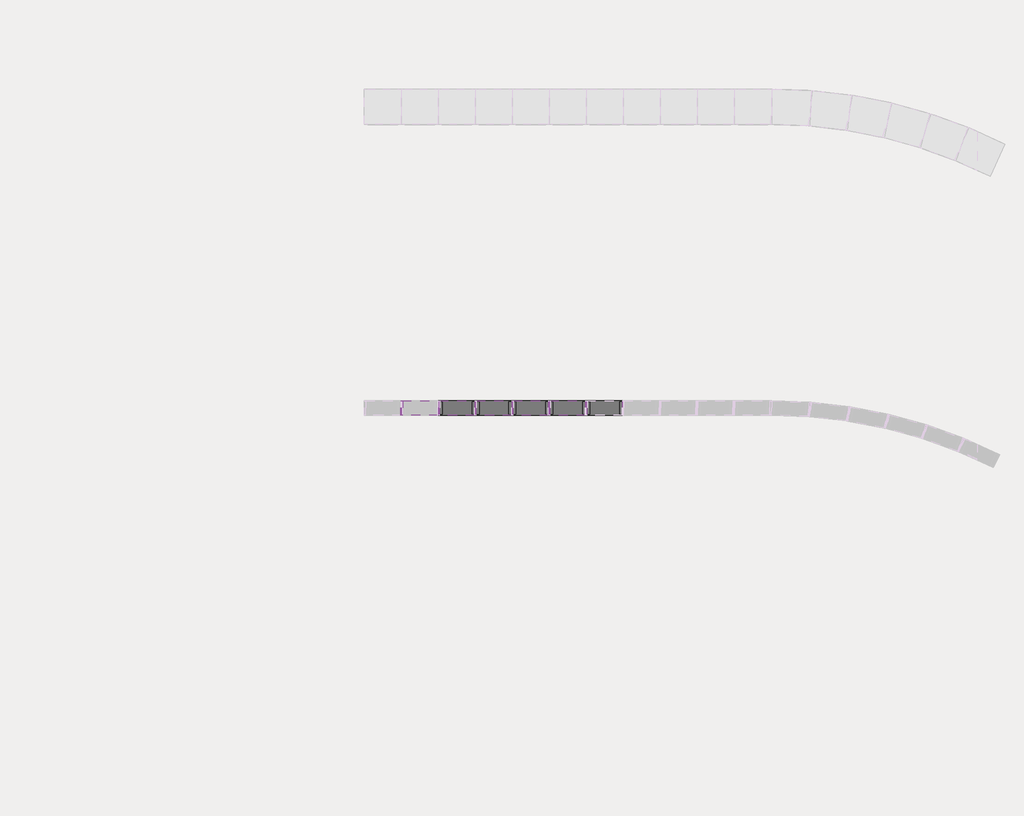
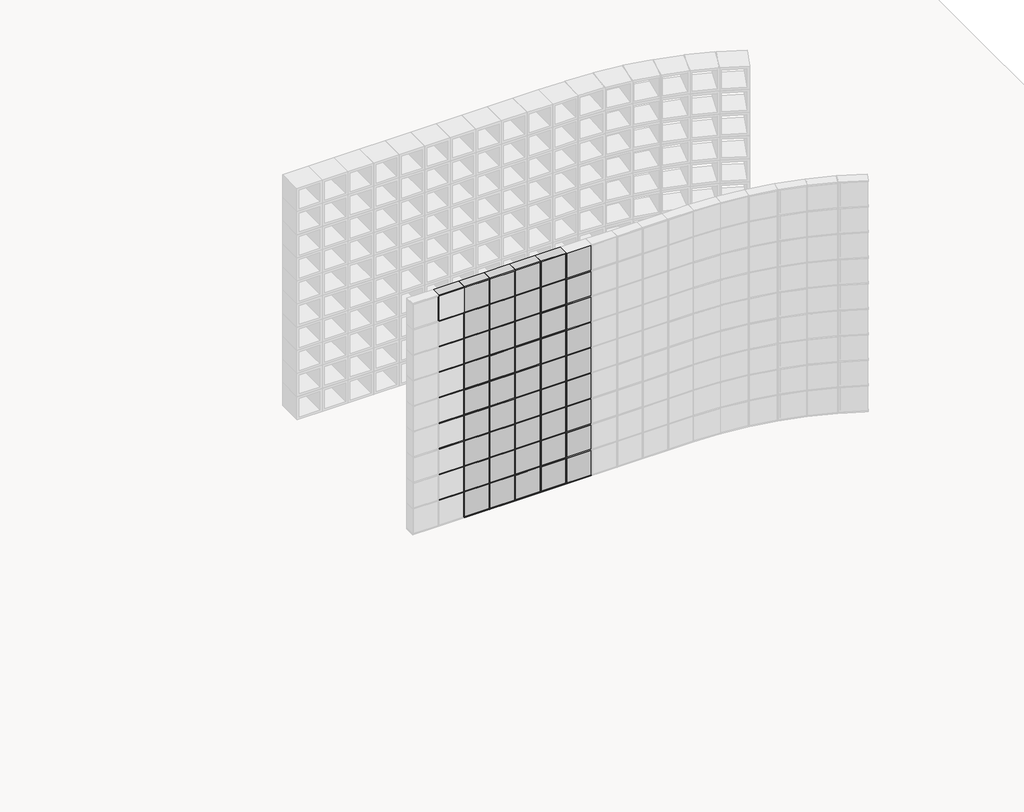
# One storey, part 3 of 15: 87 members, 45 plates.
"""IFC4 building model written with IfcOpenShell, lengths in millimetres."""

from ifc_helpers import new_model, si_unit, origin, place, context, project, spatial, transform, mapped, element, save
from components import rectangular_mullion_junta_tijolo_de_vidro_3e2591da, rectangular_mullion_junta_tijolo_de_vidro_3e2b090d, rectangular_mullion_junta_tijolo_de_vidro_f3dacb56, pnl_tijolo_de_vidro_a28b313b

model = new_model("IFC4")

# Units and contexts
model_context = context("Model", 3, world=origin())
ifc_project = project(units=[si_unit("LENGTHUNIT", "METRE", prefix="MILLI")], contexts=[model_context])

# Site, building, storey
site = spatial("IfcSite", under=ifc_project)
building = spatial("IfcBuilding", under=site)
storey = spatial("IfcBuildingStorey", under=building, Name="TÉRREO", Elevation=0.0)

# Members
placement = place(None, origin())
rectangular_mullion_junta_tijolo_de_vidro_shape = rectangular_mullion_junta_tijolo_de_vidro_3e2591da(model_context)
element("IfcMember", 1, ObjectType="Rectangular Mullion : JUNTA TIJOLO DE VIDRO", at=placement, inside=storey, context=model_context, shape_type="MappedRepresentation", body=[
    mapped(rectangular_mullion_junta_tijolo_de_vidro_shape, transform((44013.4759341, 2916.9852574, 10.0), x_axis=(1.0, 0.0, 0.0), y_axis=(0.0, -1.0, 0.0), z_axis=(0.0, 0.0, -1.0))),
])
element("IfcMember", 2, ObjectType="Rectangular Mullion : JUNTA TIJOLO DE VIDRO", at=placement, inside=storey, context=model_context, shape_type="MappedRepresentation", body=[
    mapped(rectangular_mullion_junta_tijolo_de_vidro_shape, transform((44221.6577523, 2916.9852574, 10.0), x_axis=(1.0, 0.0, 0.0), y_axis=(0.0, -1.0, 0.0), z_axis=(0.0, 0.0, -1.0))),
])
element("IfcMember", 3, ObjectType="Rectangular Mullion : JUNTA TIJOLO DE VIDRO", at=placement, inside=storey, context=model_context, shape_type="MappedRepresentation", body=[
    mapped(rectangular_mullion_junta_tijolo_de_vidro_shape, transform((44429.8395705, 2916.9852574, 10.0), x_axis=(1.0, 0.0, 0.0), y_axis=(0.0, -1.0, 0.0), z_axis=(0.0, 0.0, -1.0))),
])
element("IfcMember", 4, ObjectType="Rectangular Mullion : JUNTA TIJOLO DE VIDRO", at=placement, inside=storey, context=model_context, shape_type="MappedRepresentation", body=[
    mapped(rectangular_mullion_junta_tijolo_de_vidro_shape, transform((44638.0213887, 2916.9852574, 10.0), x_axis=(1.0, 0.0, 0.0), y_axis=(0.0, -1.0, 0.0), z_axis=(0.0, 0.0, -1.0))),
])
element("IfcMember", 5, ObjectType="Rectangular Mullion : JUNTA TIJOLO DE VIDRO", at=placement, inside=storey, context=model_context, shape_type="MappedRepresentation", body=[
    mapped(rectangular_mullion_junta_tijolo_de_vidro_shape, transform((44846.2032068, 2916.9852574, 10.0), x_axis=(1.0, 0.0, 0.0), y_axis=(0.0, -1.0, 0.0), z_axis=(0.0, 0.0, -1.0))),
])
element("IfcMember", 6, ObjectType="Rectangular Mullion : JUNTA TIJOLO DE VIDRO", at=placement, inside=storey, context=model_context, shape_type="MappedRepresentation", body=[
    mapped(rectangular_mullion_junta_tijolo_de_vidro_shape, transform((44013.4759341, 2916.9852574, 231.1111111), x_axis=(1.0, 0.0, 0.0), y_axis=(0.0, -1.0, 0.0), z_axis=(0.0, 0.0, -1.0))),
])
element("IfcMember", 7, ObjectType="Rectangular Mullion : JUNTA TIJOLO DE VIDRO", at=placement, inside=storey, context=model_context, shape_type="MappedRepresentation", body=[
    mapped(rectangular_mullion_junta_tijolo_de_vidro_shape, transform((44221.6577523, 2916.9852574, 231.1111111), x_axis=(1.0, 0.0, 0.0), y_axis=(0.0, -1.0, 0.0), z_axis=(0.0, 0.0, -1.0))),
])
element("IfcMember", 8, ObjectType="Rectangular Mullion : JUNTA TIJOLO DE VIDRO", at=placement, inside=storey, context=model_context, shape_type="MappedRepresentation", body=[
    mapped(rectangular_mullion_junta_tijolo_de_vidro_shape, transform((44429.8395705, 2916.9852574, 231.1111111), x_axis=(1.0, 0.0, 0.0), y_axis=(0.0, -1.0, 0.0), z_axis=(0.0, 0.0, -1.0))),
])
element("IfcMember", 9, ObjectType="Rectangular Mullion : JUNTA TIJOLO DE VIDRO", at=placement, inside=storey, context=model_context, shape_type="MappedRepresentation", body=[
    mapped(rectangular_mullion_junta_tijolo_de_vidro_shape, transform((44638.0213887, 2916.9852574, 231.1111111), x_axis=(1.0, 0.0, 0.0), y_axis=(0.0, -1.0, 0.0), z_axis=(0.0, 0.0, -1.0))),
])
element("IfcMember", 10, ObjectType="Rectangular Mullion : JUNTA TIJOLO DE VIDRO", at=placement, inside=storey, context=model_context, shape_type="MappedRepresentation", body=[
    mapped(rectangular_mullion_junta_tijolo_de_vidro_shape, transform((44846.2032068, 2916.9852574, 231.1111111), x_axis=(1.0, 0.0, 0.0), y_axis=(0.0, -1.0, 0.0), z_axis=(0.0, 0.0, -1.0))),
])
element("IfcMember", 11, ObjectType="Rectangular Mullion : JUNTA TIJOLO DE VIDRO", at=placement, inside=storey, context=model_context, shape_type="MappedRepresentation", body=[
    mapped(rectangular_mullion_junta_tijolo_de_vidro_shape, transform((44013.4759341, 2916.9852574, 452.2222222), x_axis=(1.0, 0.0, 0.0), y_axis=(0.0, -1.0, 0.0), z_axis=(0.0, 0.0, -1.0))),
])
element("IfcMember", 12, ObjectType="Rectangular Mullion : JUNTA TIJOLO DE VIDRO", at=placement, inside=storey, context=model_context, shape_type="MappedRepresentation", body=[
    mapped(rectangular_mullion_junta_tijolo_de_vidro_shape, transform((44221.6577523, 2916.9852574, 452.2222222), x_axis=(1.0, 0.0, 0.0), y_axis=(0.0, -1.0, 0.0), z_axis=(0.0, 0.0, -1.0))),
])
element("IfcMember", 13, ObjectType="Rectangular Mullion : JUNTA TIJOLO DE VIDRO", at=placement, inside=storey, context=model_context, shape_type="MappedRepresentation", body=[
    mapped(rectangular_mullion_junta_tijolo_de_vidro_shape, transform((44429.8395705, 2916.9852574, 452.2222222), x_axis=(1.0, 0.0, 0.0), y_axis=(0.0, -1.0, 0.0), z_axis=(0.0, 0.0, -1.0))),
])
element("IfcMember", 14, ObjectType="Rectangular Mullion : JUNTA TIJOLO DE VIDRO", at=placement, inside=storey, context=model_context, shape_type="MappedRepresentation", body=[
    mapped(rectangular_mullion_junta_tijolo_de_vidro_shape, transform((44638.0213887, 2916.9852574, 452.2222222), x_axis=(1.0, 0.0, 0.0), y_axis=(0.0, -1.0, 0.0), z_axis=(0.0, 0.0, -1.0))),
])
element("IfcMember", 15, ObjectType="Rectangular Mullion : JUNTA TIJOLO DE VIDRO", at=placement, inside=storey, context=model_context, shape_type="MappedRepresentation", body=[
    mapped(rectangular_mullion_junta_tijolo_de_vidro_shape, transform((44846.2032068, 2916.9852574, 452.2222222), x_axis=(1.0, 0.0, 0.0), y_axis=(0.0, -1.0, 0.0), z_axis=(0.0, 0.0, -1.0))),
])
element("IfcMember", 16, ObjectType="Rectangular Mullion : JUNTA TIJOLO DE VIDRO", at=placement, inside=storey, context=model_context, shape_type="MappedRepresentation", body=[
    mapped(rectangular_mullion_junta_tijolo_de_vidro_shape, transform((44013.4759341, 2916.9852574, 673.3333333), x_axis=(1.0, 0.0, 0.0), y_axis=(0.0, -1.0, 0.0), z_axis=(0.0, 0.0, -1.0))),
])
element("IfcMember", 17, ObjectType="Rectangular Mullion : JUNTA TIJOLO DE VIDRO", at=placement, inside=storey, context=model_context, shape_type="MappedRepresentation", body=[
    mapped(rectangular_mullion_junta_tijolo_de_vidro_shape, transform((44221.6577523, 2916.9852574, 673.3333333), x_axis=(1.0, 0.0, 0.0), y_axis=(0.0, -1.0, 0.0), z_axis=(0.0, 0.0, -1.0))),
])
element("IfcMember", 18, ObjectType="Rectangular Mullion : JUNTA TIJOLO DE VIDRO", at=placement, inside=storey, context=model_context, shape_type="MappedRepresentation", body=[
    mapped(rectangular_mullion_junta_tijolo_de_vidro_shape, transform((44429.8395705, 2916.9852574, 673.3333333), x_axis=(1.0, 0.0, 0.0), y_axis=(0.0, -1.0, 0.0), z_axis=(0.0, 0.0, -1.0))),
])
element("IfcMember", 19, ObjectType="Rectangular Mullion : JUNTA TIJOLO DE VIDRO", at=placement, inside=storey, context=model_context, shape_type="MappedRepresentation", body=[
    mapped(rectangular_mullion_junta_tijolo_de_vidro_shape, transform((44638.0213887, 2916.9852574, 673.3333333), x_axis=(1.0, 0.0, 0.0), y_axis=(0.0, -1.0, 0.0), z_axis=(0.0, 0.0, -1.0))),
])
element("IfcMember", 20, ObjectType="Rectangular Mullion : JUNTA TIJOLO DE VIDRO", at=placement, inside=storey, context=model_context, shape_type="MappedRepresentation", body=[
    mapped(rectangular_mullion_junta_tijolo_de_vidro_shape, transform((44846.2032068, 2916.9852574, 673.3333333), x_axis=(1.0, 0.0, 0.0), y_axis=(0.0, -1.0, 0.0), z_axis=(0.0, 0.0, -1.0))),
])
element("IfcMember", 21, ObjectType="Rectangular Mullion : JUNTA TIJOLO DE VIDRO", at=placement, inside=storey, context=model_context, shape_type="MappedRepresentation", body=[
    mapped(rectangular_mullion_junta_tijolo_de_vidro_shape, transform((44013.4759341, 2916.9852574, 894.4444444), x_axis=(1.0, 0.0, 0.0), y_axis=(0.0, -1.0, 0.0), z_axis=(0.0, 0.0, -1.0))),
])
element("IfcMember", 22, ObjectType="Rectangular Mullion : JUNTA TIJOLO DE VIDRO", at=placement, inside=storey, context=model_context, shape_type="MappedRepresentation", body=[
    mapped(rectangular_mullion_junta_tijolo_de_vidro_shape, transform((44221.6577523, 2916.9852574, 894.4444444), x_axis=(1.0, 0.0, 0.0), y_axis=(0.0, -1.0, 0.0), z_axis=(0.0, 0.0, -1.0))),
])
element("IfcMember", 23, ObjectType="Rectangular Mullion : JUNTA TIJOLO DE VIDRO", at=placement, inside=storey, context=model_context, shape_type="MappedRepresentation", body=[
    mapped(rectangular_mullion_junta_tijolo_de_vidro_shape, transform((44429.8395705, 2916.9852574, 894.4444444), x_axis=(1.0, 0.0, 0.0), y_axis=(0.0, -1.0, 0.0), z_axis=(0.0, 0.0, -1.0))),
])
element("IfcMember", 24, ObjectType="Rectangular Mullion : JUNTA TIJOLO DE VIDRO", at=placement, inside=storey, context=model_context, shape_type="MappedRepresentation", body=[
    mapped(rectangular_mullion_junta_tijolo_de_vidro_shape, transform((44638.0213887, 2916.9852574, 894.4444444), x_axis=(1.0, 0.0, 0.0), y_axis=(0.0, -1.0, 0.0), z_axis=(0.0, 0.0, -1.0))),
])
element("IfcMember", 25, ObjectType="Rectangular Mullion : JUNTA TIJOLO DE VIDRO", at=placement, inside=storey, context=model_context, shape_type="MappedRepresentation", body=[
    mapped(rectangular_mullion_junta_tijolo_de_vidro_shape, transform((44846.2032068, 2916.9852574, 894.4444444), x_axis=(1.0, 0.0, 0.0), y_axis=(0.0, -1.0, 0.0), z_axis=(0.0, 0.0, -1.0))),
])
element("IfcMember", 26, ObjectType="Rectangular Mullion : JUNTA TIJOLO DE VIDRO", at=placement, inside=storey, context=model_context, shape_type="MappedRepresentation", body=[
    mapped(rectangular_mullion_junta_tijolo_de_vidro_shape, transform((44013.4759341, 2916.9852574, 1115.5555556), x_axis=(1.0, 0.0, 0.0), y_axis=(0.0, -1.0, 0.0), z_axis=(0.0, 0.0, -1.0))),
])
element("IfcMember", 27, ObjectType="Rectangular Mullion : JUNTA TIJOLO DE VIDRO", at=placement, inside=storey, context=model_context, shape_type="MappedRepresentation", body=[
    mapped(rectangular_mullion_junta_tijolo_de_vidro_shape, transform((44221.6577523, 2916.9852574, 1115.5555556), x_axis=(1.0, 0.0, 0.0), y_axis=(0.0, -1.0, 0.0), z_axis=(0.0, 0.0, -1.0))),
])
element("IfcMember", 28, ObjectType="Rectangular Mullion : JUNTA TIJOLO DE VIDRO", at=placement, inside=storey, context=model_context, shape_type="MappedRepresentation", body=[
    mapped(rectangular_mullion_junta_tijolo_de_vidro_shape, transform((44429.8395705, 2916.9852574, 1115.5555556), x_axis=(1.0, 0.0, 0.0), y_axis=(0.0, -1.0, 0.0), z_axis=(0.0, 0.0, -1.0))),
])
element("IfcMember", 29, ObjectType="Rectangular Mullion : JUNTA TIJOLO DE VIDRO", at=placement, inside=storey, context=model_context, shape_type="MappedRepresentation", body=[
    mapped(rectangular_mullion_junta_tijolo_de_vidro_shape, transform((44638.0213887, 2916.9852574, 1115.5555556), x_axis=(1.0, 0.0, 0.0), y_axis=(0.0, -1.0, 0.0), z_axis=(0.0, 0.0, -1.0))),
])
element("IfcMember", 30, ObjectType="Rectangular Mullion : JUNTA TIJOLO DE VIDRO", at=placement, inside=storey, context=model_context, shape_type="MappedRepresentation", body=[
    mapped(rectangular_mullion_junta_tijolo_de_vidro_shape, transform((44846.2032068, 2916.9852574, 1115.5555556), x_axis=(1.0, 0.0, 0.0), y_axis=(0.0, -1.0, 0.0), z_axis=(0.0, 0.0, -1.0))),
])
element("IfcMember", 31, ObjectType="Rectangular Mullion : JUNTA TIJOLO DE VIDRO", at=placement, inside=storey, context=model_context, shape_type="MappedRepresentation", body=[
    mapped(rectangular_mullion_junta_tijolo_de_vidro_shape, transform((44013.4759341, 2916.9852574, 1336.6666667), x_axis=(1.0, 0.0, 0.0), y_axis=(0.0, -1.0, 0.0), z_axis=(0.0, 0.0, -1.0))),
])
element("IfcMember", 32, ObjectType="Rectangular Mullion : JUNTA TIJOLO DE VIDRO", at=placement, inside=storey, context=model_context, shape_type="MappedRepresentation", body=[
    mapped(rectangular_mullion_junta_tijolo_de_vidro_shape, transform((44221.6577523, 2916.9852574, 1336.6666667), x_axis=(1.0, 0.0, 0.0), y_axis=(0.0, -1.0, 0.0), z_axis=(0.0, 0.0, -1.0))),
])
element("IfcMember", 33, ObjectType="Rectangular Mullion : JUNTA TIJOLO DE VIDRO", at=placement, inside=storey, context=model_context, shape_type="MappedRepresentation", body=[
    mapped(rectangular_mullion_junta_tijolo_de_vidro_shape, transform((44429.8395705, 2916.9852574, 1336.6666667), x_axis=(1.0, 0.0, 0.0), y_axis=(0.0, -1.0, 0.0), z_axis=(0.0, 0.0, -1.0))),
])
element("IfcMember", 34, ObjectType="Rectangular Mullion : JUNTA TIJOLO DE VIDRO", at=placement, inside=storey, context=model_context, shape_type="MappedRepresentation", body=[
    mapped(rectangular_mullion_junta_tijolo_de_vidro_shape, transform((44638.0213887, 2916.9852574, 1336.6666667), x_axis=(1.0, 0.0, 0.0), y_axis=(0.0, -1.0, 0.0), z_axis=(0.0, 0.0, -1.0))),
])
element("IfcMember", 35, ObjectType="Rectangular Mullion : JUNTA TIJOLO DE VIDRO", at=placement, inside=storey, context=model_context, shape_type="MappedRepresentation", body=[
    mapped(rectangular_mullion_junta_tijolo_de_vidro_shape, transform((44846.2032068, 2916.9852574, 1336.6666667), x_axis=(1.0, 0.0, 0.0), y_axis=(0.0, -1.0, 0.0), z_axis=(0.0, 0.0, -1.0))),
])
element("IfcMember", 36, ObjectType="Rectangular Mullion : JUNTA TIJOLO DE VIDRO", at=placement, inside=storey, context=model_context, shape_type="MappedRepresentation", body=[
    mapped(rectangular_mullion_junta_tijolo_de_vidro_shape, transform((44013.4759341, 2916.9852574, 1557.7777778), x_axis=(1.0, 0.0, 0.0), y_axis=(0.0, -1.0, 0.0), z_axis=(0.0, 0.0, -1.0))),
])
element("IfcMember", 37, ObjectType="Rectangular Mullion : JUNTA TIJOLO DE VIDRO", at=placement, inside=storey, context=model_context, shape_type="MappedRepresentation", body=[
    mapped(rectangular_mullion_junta_tijolo_de_vidro_shape, transform((43805.2941159, 2916.9852574, 1778.8888889), x_axis=(1.0, 0.0, 0.0), y_axis=(0.0, -1.0, 0.0), z_axis=(0.0, 0.0, -1.0))),
])
rectangular_mullion_junta_tijolo_de_vidro_2_shape = rectangular_mullion_junta_tijolo_de_vidro_3e2b090d(model_context)
element("IfcMember", 38, ObjectType="Rectangular Mullion : JUNTA TIJOLO DE VIDRO", at=placement, inside=storey, context=model_context, shape_type="MappedRepresentation", body=[
    mapped(rectangular_mullion_junta_tijolo_de_vidro_2_shape, transform((44013.4759341, 2916.9852574, 2000.0), x_axis=(0.0, 0.0, 1.0), y_axis=(0.0, -1.0, 0.0), z_axis=(1.0, 0.0, 0.0))),
])
element("IfcMember", 39, ObjectType="Rectangular Mullion : JUNTA TIJOLO DE VIDRO", at=placement, inside=storey, context=model_context, shape_type="MappedRepresentation", body=[
    mapped(rectangular_mullion_junta_tijolo_de_vidro_2_shape, transform((44221.6577523, 2916.9852574, 2000.0), x_axis=(0.0, 0.0, 1.0), y_axis=(0.0, -1.0, 0.0), z_axis=(1.0, 0.0, 0.0))),
])
element("IfcMember", 40, ObjectType="Rectangular Mullion : JUNTA TIJOLO DE VIDRO", at=placement, inside=storey, context=model_context, shape_type="MappedRepresentation", body=[
    mapped(rectangular_mullion_junta_tijolo_de_vidro_2_shape, transform((44429.8395705, 2916.9852574, 2000.0), x_axis=(0.0, 0.0, 1.0), y_axis=(0.0, -1.0, 0.0), z_axis=(1.0, 0.0, 0.0))),
])
element("IfcMember", 41, ObjectType="Rectangular Mullion : JUNTA TIJOLO DE VIDRO", at=placement, inside=storey, context=model_context, shape_type="MappedRepresentation", body=[
    mapped(rectangular_mullion_junta_tijolo_de_vidro_2_shape, transform((44638.0213887, 2916.9852574, 2000.0), x_axis=(0.0, 0.0, 1.0), y_axis=(0.0, -1.0, 0.0), z_axis=(1.0, 0.0, 0.0))),
])
element("IfcMember", 42, ObjectType="Rectangular Mullion : JUNTA TIJOLO DE VIDRO", at=placement, inside=storey, context=model_context, shape_type="MappedRepresentation", body=[
    mapped(rectangular_mullion_junta_tijolo_de_vidro_2_shape, transform((44846.2032068, 2916.9852574, 2000.0), x_axis=(0.0, 0.0, 1.0), y_axis=(0.0, -1.0, 0.0), z_axis=(1.0, 0.0, 0.0))),
])
element("IfcMember", 43, ObjectType="Rectangular Mullion : JUNTA TIJOLO DE VIDRO", at=placement, inside=storey, context=model_context, shape_type="MappedRepresentation", body=[
    mapped(rectangular_mullion_junta_tijolo_de_vidro_2_shape, transform((44013.4759341, 2916.9852574, 0.0), x_axis=(0.0, 0.0, -1.0), y_axis=(0.0, -1.0, 0.0), z_axis=(-1.0, 0.0, 0.0))),
])
element("IfcMember", 44, ObjectType="Rectangular Mullion : JUNTA TIJOLO DE VIDRO", at=placement, inside=storey, context=model_context, shape_type="MappedRepresentation", body=[
    mapped(rectangular_mullion_junta_tijolo_de_vidro_2_shape, transform((44221.6577523, 2916.9852574, 0.0), x_axis=(0.0, 0.0, -1.0), y_axis=(0.0, -1.0, 0.0), z_axis=(-1.0, 0.0, 0.0))),
])
element("IfcMember", 45, ObjectType="Rectangular Mullion : JUNTA TIJOLO DE VIDRO", at=placement, inside=storey, context=model_context, shape_type="MappedRepresentation", body=[
    mapped(rectangular_mullion_junta_tijolo_de_vidro_2_shape, transform((44429.8395705, 2916.9852574, 0.0), x_axis=(0.0, 0.0, -1.0), y_axis=(0.0, -1.0, 0.0), z_axis=(-1.0, 0.0, 0.0))),
])
element("IfcMember", 46, ObjectType="Rectangular Mullion : JUNTA TIJOLO DE VIDRO", at=placement, inside=storey, context=model_context, shape_type="MappedRepresentation", body=[
    mapped(rectangular_mullion_junta_tijolo_de_vidro_2_shape, transform((44638.0213887, 2916.9852574, 0.0), x_axis=(0.0, 0.0, -1.0), y_axis=(0.0, -1.0, 0.0), z_axis=(-1.0, 0.0, 0.0))),
])
element("IfcMember", 47, ObjectType="Rectangular Mullion : JUNTA TIJOLO DE VIDRO", at=placement, inside=storey, context=model_context, shape_type="MappedRepresentation", body=[
    mapped(rectangular_mullion_junta_tijolo_de_vidro_2_shape, transform((44846.2032068, 2916.9852574, 0.0), x_axis=(0.0, 0.0, -1.0), y_axis=(0.0, -1.0, 0.0), z_axis=(-1.0, 0.0, 0.0))),
])
rectangular_mullion_junta_tijolo_de_vidro_3_shape = rectangular_mullion_junta_tijolo_de_vidro_f3dacb56(model_context)
element("IfcMember", 48, ObjectType="Rectangular Mullion : JUNTA TIJOLO DE VIDRO", at=placement, inside=storey, context=model_context, shape_type="MappedRepresentation", body=[
    mapped(rectangular_mullion_junta_tijolo_de_vidro_3_shape, transform((44013.4759341, 2916.9852574, 226.1111111), x_axis=(0.0, 0.0, 1.0), y_axis=(0.0, -1.0, 0.0), z_axis=(1.0, 0.0, 0.0))),
])
element("IfcMember", 49, ObjectType="Rectangular Mullion : JUNTA TIJOLO DE VIDRO", at=placement, inside=storey, context=model_context, shape_type="MappedRepresentation", body=[
    mapped(rectangular_mullion_junta_tijolo_de_vidro_3_shape, transform((44221.6577523, 2916.9852574, 226.1111111), x_axis=(0.0, 0.0, 1.0), y_axis=(0.0, -1.0, 0.0), z_axis=(1.0, 0.0, 0.0))),
])
element("IfcMember", 50, ObjectType="Rectangular Mullion : JUNTA TIJOLO DE VIDRO", at=placement, inside=storey, context=model_context, shape_type="MappedRepresentation", body=[
    mapped(rectangular_mullion_junta_tijolo_de_vidro_3_shape, transform((44429.8395705, 2916.9852574, 226.1111111), x_axis=(0.0, 0.0, 1.0), y_axis=(0.0, -1.0, 0.0), z_axis=(1.0, 0.0, 0.0))),
])
element("IfcMember", 51, ObjectType="Rectangular Mullion : JUNTA TIJOLO DE VIDRO", at=placement, inside=storey, context=model_context, shape_type="MappedRepresentation", body=[
    mapped(rectangular_mullion_junta_tijolo_de_vidro_3_shape, transform((44638.0213887, 2916.9852574, 226.1111111), x_axis=(0.0, 0.0, 1.0), y_axis=(0.0, -1.0, 0.0), z_axis=(1.0, 0.0, 0.0))),
])
element("IfcMember", 52, ObjectType="Rectangular Mullion : JUNTA TIJOLO DE VIDRO", at=placement, inside=storey, context=model_context, shape_type="MappedRepresentation", body=[
    mapped(rectangular_mullion_junta_tijolo_de_vidro_3_shape, transform((44846.2032068, 2916.9852574, 226.1111111), x_axis=(0.0, 0.0, 1.0), y_axis=(0.0, -1.0, 0.0), z_axis=(1.0, 0.0, 0.0))),
])
element("IfcMember", 53, ObjectType="Rectangular Mullion : JUNTA TIJOLO DE VIDRO", at=placement, inside=storey, context=model_context, shape_type="MappedRepresentation", body=[
    mapped(rectangular_mullion_junta_tijolo_de_vidro_3_shape, transform((44013.4759341, 2916.9852574, 447.2222222), x_axis=(0.0, 0.0, 1.0), y_axis=(0.0, -1.0, 0.0), z_axis=(1.0, 0.0, 0.0))),
])
element("IfcMember", 54, ObjectType="Rectangular Mullion : JUNTA TIJOLO DE VIDRO", at=placement, inside=storey, context=model_context, shape_type="MappedRepresentation", body=[
    mapped(rectangular_mullion_junta_tijolo_de_vidro_3_shape, transform((44221.6577523, 2916.9852574, 447.2222222), x_axis=(0.0, 0.0, 1.0), y_axis=(0.0, -1.0, 0.0), z_axis=(1.0, 0.0, 0.0))),
])
element("IfcMember", 55, ObjectType="Rectangular Mullion : JUNTA TIJOLO DE VIDRO", at=placement, inside=storey, context=model_context, shape_type="MappedRepresentation", body=[
    mapped(rectangular_mullion_junta_tijolo_de_vidro_3_shape, transform((44429.8395705, 2916.9852574, 447.2222222), x_axis=(0.0, 0.0, 1.0), y_axis=(0.0, -1.0, 0.0), z_axis=(1.0, 0.0, 0.0))),
])
element("IfcMember", 56, ObjectType="Rectangular Mullion : JUNTA TIJOLO DE VIDRO", at=placement, inside=storey, context=model_context, shape_type="MappedRepresentation", body=[
    mapped(rectangular_mullion_junta_tijolo_de_vidro_3_shape, transform((44638.0213887, 2916.9852574, 447.2222222), x_axis=(0.0, 0.0, 1.0), y_axis=(0.0, -1.0, 0.0), z_axis=(1.0, 0.0, 0.0))),
])
element("IfcMember", 57, ObjectType="Rectangular Mullion : JUNTA TIJOLO DE VIDRO", at=placement, inside=storey, context=model_context, shape_type="MappedRepresentation", body=[
    mapped(rectangular_mullion_junta_tijolo_de_vidro_3_shape, transform((44846.2032068, 2916.9852574, 447.2222222), x_axis=(0.0, 0.0, 1.0), y_axis=(0.0, -1.0, 0.0), z_axis=(1.0, 0.0, 0.0))),
])
element("IfcMember", 58, ObjectType="Rectangular Mullion : JUNTA TIJOLO DE VIDRO", at=placement, inside=storey, context=model_context, shape_type="MappedRepresentation", body=[
    mapped(rectangular_mullion_junta_tijolo_de_vidro_3_shape, transform((44013.4759341, 2916.9852574, 668.3333333), x_axis=(0.0, 0.0, 1.0), y_axis=(0.0, -1.0, 0.0), z_axis=(1.0, 0.0, 0.0))),
])
element("IfcMember", 59, ObjectType="Rectangular Mullion : JUNTA TIJOLO DE VIDRO", at=placement, inside=storey, context=model_context, shape_type="MappedRepresentation", body=[
    mapped(rectangular_mullion_junta_tijolo_de_vidro_3_shape, transform((44221.6577523, 2916.9852574, 668.3333333), x_axis=(0.0, 0.0, 1.0), y_axis=(0.0, -1.0, 0.0), z_axis=(1.0, 0.0, 0.0))),
])
element("IfcMember", 60, ObjectType="Rectangular Mullion : JUNTA TIJOLO DE VIDRO", at=placement, inside=storey, context=model_context, shape_type="MappedRepresentation", body=[
    mapped(rectangular_mullion_junta_tijolo_de_vidro_3_shape, transform((44429.8395705, 2916.9852574, 668.3333333), x_axis=(0.0, 0.0, 1.0), y_axis=(0.0, -1.0, 0.0), z_axis=(1.0, 0.0, 0.0))),
])
element("IfcMember", 61, ObjectType="Rectangular Mullion : JUNTA TIJOLO DE VIDRO", at=placement, inside=storey, context=model_context, shape_type="MappedRepresentation", body=[
    mapped(rectangular_mullion_junta_tijolo_de_vidro_3_shape, transform((44638.0213887, 2916.9852574, 668.3333333), x_axis=(0.0, 0.0, 1.0), y_axis=(0.0, -1.0, 0.0), z_axis=(1.0, 0.0, 0.0))),
])
element("IfcMember", 62, ObjectType="Rectangular Mullion : JUNTA TIJOLO DE VIDRO", at=placement, inside=storey, context=model_context, shape_type="MappedRepresentation", body=[
    mapped(rectangular_mullion_junta_tijolo_de_vidro_3_shape, transform((44846.2032068, 2916.9852574, 668.3333333), x_axis=(0.0, 0.0, 1.0), y_axis=(0.0, -1.0, 0.0), z_axis=(1.0, 0.0, 0.0))),
])
element("IfcMember", 63, ObjectType="Rectangular Mullion : JUNTA TIJOLO DE VIDRO", at=placement, inside=storey, context=model_context, shape_type="MappedRepresentation", body=[
    mapped(rectangular_mullion_junta_tijolo_de_vidro_3_shape, transform((44013.4759341, 2916.9852574, 889.4444444), x_axis=(0.0, 0.0, 1.0), y_axis=(0.0, -1.0, 0.0), z_axis=(1.0, 0.0, 0.0))),
])
element("IfcMember", 64, ObjectType="Rectangular Mullion : JUNTA TIJOLO DE VIDRO", at=placement, inside=storey, context=model_context, shape_type="MappedRepresentation", body=[
    mapped(rectangular_mullion_junta_tijolo_de_vidro_3_shape, transform((44221.6577523, 2916.9852574, 889.4444444), x_axis=(0.0, 0.0, 1.0), y_axis=(0.0, -1.0, 0.0), z_axis=(1.0, 0.0, 0.0))),
])
element("IfcMember", 65, ObjectType="Rectangular Mullion : JUNTA TIJOLO DE VIDRO", at=placement, inside=storey, context=model_context, shape_type="MappedRepresentation", body=[
    mapped(rectangular_mullion_junta_tijolo_de_vidro_3_shape, transform((44429.8395705, 2916.9852574, 889.4444444), x_axis=(0.0, 0.0, 1.0), y_axis=(0.0, -1.0, 0.0), z_axis=(1.0, 0.0, 0.0))),
])
element("IfcMember", 66, ObjectType="Rectangular Mullion : JUNTA TIJOLO DE VIDRO", at=placement, inside=storey, context=model_context, shape_type="MappedRepresentation", body=[
    mapped(rectangular_mullion_junta_tijolo_de_vidro_3_shape, transform((44638.0213887, 2916.9852574, 889.4444444), x_axis=(0.0, 0.0, 1.0), y_axis=(0.0, -1.0, 0.0), z_axis=(1.0, 0.0, 0.0))),
])
element("IfcMember", 67, ObjectType="Rectangular Mullion : JUNTA TIJOLO DE VIDRO", at=placement, inside=storey, context=model_context, shape_type="MappedRepresentation", body=[
    mapped(rectangular_mullion_junta_tijolo_de_vidro_3_shape, transform((44846.2032068, 2916.9852574, 889.4444444), x_axis=(0.0, 0.0, 1.0), y_axis=(0.0, -1.0, 0.0), z_axis=(1.0, 0.0, 0.0))),
])
element("IfcMember", 68, ObjectType="Rectangular Mullion : JUNTA TIJOLO DE VIDRO", at=placement, inside=storey, context=model_context, shape_type="MappedRepresentation", body=[
    mapped(rectangular_mullion_junta_tijolo_de_vidro_3_shape, transform((44013.4759341, 2916.9852574, 1110.5555556), x_axis=(0.0, 0.0, 1.0), y_axis=(0.0, -1.0, 0.0), z_axis=(1.0, 0.0, 0.0))),
])
element("IfcMember", 69, ObjectType="Rectangular Mullion : JUNTA TIJOLO DE VIDRO", at=placement, inside=storey, context=model_context, shape_type="MappedRepresentation", body=[
    mapped(rectangular_mullion_junta_tijolo_de_vidro_3_shape, transform((44221.6577523, 2916.9852574, 1110.5555556), x_axis=(0.0, 0.0, 1.0), y_axis=(0.0, -1.0, 0.0), z_axis=(1.0, 0.0, 0.0))),
])
element("IfcMember", 70, ObjectType="Rectangular Mullion : JUNTA TIJOLO DE VIDRO", at=placement, inside=storey, context=model_context, shape_type="MappedRepresentation", body=[
    mapped(rectangular_mullion_junta_tijolo_de_vidro_3_shape, transform((44429.8395705, 2916.9852574, 1110.5555556), x_axis=(0.0, 0.0, 1.0), y_axis=(0.0, -1.0, 0.0), z_axis=(1.0, 0.0, 0.0))),
])
element("IfcMember", 71, ObjectType="Rectangular Mullion : JUNTA TIJOLO DE VIDRO", at=placement, inside=storey, context=model_context, shape_type="MappedRepresentation", body=[
    mapped(rectangular_mullion_junta_tijolo_de_vidro_3_shape, transform((44638.0213887, 2916.9852574, 1110.5555556), x_axis=(0.0, 0.0, 1.0), y_axis=(0.0, -1.0, 0.0), z_axis=(1.0, 0.0, 0.0))),
])
element("IfcMember", 72, ObjectType="Rectangular Mullion : JUNTA TIJOLO DE VIDRO", at=placement, inside=storey, context=model_context, shape_type="MappedRepresentation", body=[
    mapped(rectangular_mullion_junta_tijolo_de_vidro_3_shape, transform((44846.2032068, 2916.9852574, 1110.5555556), x_axis=(0.0, 0.0, 1.0), y_axis=(0.0, -1.0, 0.0), z_axis=(1.0, 0.0, 0.0))),
])
element("IfcMember", 73, ObjectType="Rectangular Mullion : JUNTA TIJOLO DE VIDRO", at=placement, inside=storey, context=model_context, shape_type="MappedRepresentation", body=[
    mapped(rectangular_mullion_junta_tijolo_de_vidro_3_shape, transform((44013.4759341, 2916.9852574, 1331.6666667), x_axis=(0.0, 0.0, 1.0), y_axis=(0.0, -1.0, 0.0), z_axis=(1.0, 0.0, 0.0))),
])
element("IfcMember", 74, ObjectType="Rectangular Mullion : JUNTA TIJOLO DE VIDRO", at=placement, inside=storey, context=model_context, shape_type="MappedRepresentation", body=[
    mapped(rectangular_mullion_junta_tijolo_de_vidro_3_shape, transform((44221.6577523, 2916.9852574, 1331.6666667), x_axis=(0.0, 0.0, 1.0), y_axis=(0.0, -1.0, 0.0), z_axis=(1.0, 0.0, 0.0))),
])
element("IfcMember", 75, ObjectType="Rectangular Mullion : JUNTA TIJOLO DE VIDRO", at=placement, inside=storey, context=model_context, shape_type="MappedRepresentation", body=[
    mapped(rectangular_mullion_junta_tijolo_de_vidro_3_shape, transform((44429.8395705, 2916.9852574, 1331.6666667), x_axis=(0.0, 0.0, 1.0), y_axis=(0.0, -1.0, 0.0), z_axis=(1.0, 0.0, 0.0))),
])
element("IfcMember", 76, ObjectType="Rectangular Mullion : JUNTA TIJOLO DE VIDRO", at=placement, inside=storey, context=model_context, shape_type="MappedRepresentation", body=[
    mapped(rectangular_mullion_junta_tijolo_de_vidro_3_shape, transform((44638.0213887, 2916.9852574, 1331.6666667), x_axis=(0.0, 0.0, 1.0), y_axis=(0.0, -1.0, 0.0), z_axis=(1.0, 0.0, 0.0))),
])
element("IfcMember", 77, ObjectType="Rectangular Mullion : JUNTA TIJOLO DE VIDRO", at=placement, inside=storey, context=model_context, shape_type="MappedRepresentation", body=[
    mapped(rectangular_mullion_junta_tijolo_de_vidro_3_shape, transform((44846.2032068, 2916.9852574, 1331.6666667), x_axis=(0.0, 0.0, 1.0), y_axis=(0.0, -1.0, 0.0), z_axis=(1.0, 0.0, 0.0))),
])
element("IfcMember", 78, ObjectType="Rectangular Mullion : JUNTA TIJOLO DE VIDRO", at=placement, inside=storey, context=model_context, shape_type="MappedRepresentation", body=[
    mapped(rectangular_mullion_junta_tijolo_de_vidro_3_shape, transform((44013.4759341, 2916.9852574, 1552.7777778), x_axis=(0.0, 0.0, 1.0), y_axis=(0.0, -1.0, 0.0), z_axis=(1.0, 0.0, 0.0))),
])
element("IfcMember", 79, ObjectType="Rectangular Mullion : JUNTA TIJOLO DE VIDRO", at=placement, inside=storey, context=model_context, shape_type="MappedRepresentation", body=[
    mapped(rectangular_mullion_junta_tijolo_de_vidro_3_shape, transform((44221.6577523, 2916.9852574, 1552.7777778), x_axis=(0.0, 0.0, 1.0), y_axis=(0.0, -1.0, 0.0), z_axis=(1.0, 0.0, 0.0))),
])
element("IfcMember", 80, ObjectType="Rectangular Mullion : JUNTA TIJOLO DE VIDRO", at=placement, inside=storey, context=model_context, shape_type="MappedRepresentation", body=[
    mapped(rectangular_mullion_junta_tijolo_de_vidro_3_shape, transform((44429.8395705, 2916.9852574, 1552.7777778), x_axis=(0.0, 0.0, 1.0), y_axis=(0.0, -1.0, 0.0), z_axis=(1.0, 0.0, 0.0))),
])
element("IfcMember", 81, ObjectType="Rectangular Mullion : JUNTA TIJOLO DE VIDRO", at=placement, inside=storey, context=model_context, shape_type="MappedRepresentation", body=[
    mapped(rectangular_mullion_junta_tijolo_de_vidro_3_shape, transform((44638.0213887, 2916.9852574, 1552.7777778), x_axis=(0.0, 0.0, 1.0), y_axis=(0.0, -1.0, 0.0), z_axis=(1.0, 0.0, 0.0))),
])
element("IfcMember", 82, ObjectType="Rectangular Mullion : JUNTA TIJOLO DE VIDRO", at=placement, inside=storey, context=model_context, shape_type="MappedRepresentation", body=[
    mapped(rectangular_mullion_junta_tijolo_de_vidro_3_shape, transform((44846.2032068, 2916.9852574, 1552.7777778), x_axis=(0.0, 0.0, 1.0), y_axis=(0.0, -1.0, 0.0), z_axis=(1.0, 0.0, 0.0))),
])
element("IfcMember", 83, ObjectType="Rectangular Mullion : JUNTA TIJOLO DE VIDRO", at=placement, inside=storey, context=model_context, shape_type="MappedRepresentation", body=[
    mapped(rectangular_mullion_junta_tijolo_de_vidro_3_shape, transform((44013.4759341, 2916.9852574, 1773.8888889), x_axis=(0.0, 0.0, 1.0), y_axis=(0.0, -1.0, 0.0), z_axis=(1.0, 0.0, 0.0))),
])
element("IfcMember", 84, ObjectType="Rectangular Mullion : JUNTA TIJOLO DE VIDRO", at=placement, inside=storey, context=model_context, shape_type="MappedRepresentation", body=[
    mapped(rectangular_mullion_junta_tijolo_de_vidro_3_shape, transform((44221.6577523, 2916.9852574, 1773.8888889), x_axis=(0.0, 0.0, 1.0), y_axis=(0.0, -1.0, 0.0), z_axis=(1.0, 0.0, 0.0))),
])
element("IfcMember", 85, ObjectType="Rectangular Mullion : JUNTA TIJOLO DE VIDRO", at=placement, inside=storey, context=model_context, shape_type="MappedRepresentation", body=[
    mapped(rectangular_mullion_junta_tijolo_de_vidro_3_shape, transform((44429.8395705, 2916.9852574, 1773.8888889), x_axis=(0.0, 0.0, 1.0), y_axis=(0.0, -1.0, 0.0), z_axis=(1.0, 0.0, 0.0))),
])
element("IfcMember", 86, ObjectType="Rectangular Mullion : JUNTA TIJOLO DE VIDRO", at=placement, inside=storey, context=model_context, shape_type="MappedRepresentation", body=[
    mapped(rectangular_mullion_junta_tijolo_de_vidro_3_shape, transform((44638.0213887, 2916.9852574, 1773.8888889), x_axis=(0.0, 0.0, 1.0), y_axis=(0.0, -1.0, 0.0), z_axis=(1.0, 0.0, 0.0))),
])
element("IfcMember", 87, ObjectType="Rectangular Mullion : JUNTA TIJOLO DE VIDRO", at=placement, inside=storey, context=model_context, shape_type="MappedRepresentation", body=[
    mapped(rectangular_mullion_junta_tijolo_de_vidro_3_shape, transform((44846.2032068, 2916.9852574, 1773.8888889), x_axis=(0.0, 0.0, 1.0), y_axis=(0.0, -1.0, 0.0), z_axis=(1.0, 0.0, 0.0))),
])

# Plates
pnl_tijolo_de_vidro_shape = pnl_tijolo_de_vidro_a28b313b(model_context)
element("IfcPlate", 88, ObjectType="pnl - TIJOLO DE VIDRO : e = 8", at=placement, inside=storey, context=model_context, shape_type="MappedRepresentation", body=[
    mapped(pnl_tijolo_de_vidro_shape, transform((44117.5668432, 2916.9852574, 10.0), x_axis=(1.0, 0.0, 0.0), y_axis=(0.0, 1.0, 0.0), z_axis=(0.0, 0.0, 1.0))),
])
element("IfcPlate", 89, ObjectType="pnl - TIJOLO DE VIDRO : e = 8", at=placement, inside=storey, context=model_context, shape_type="MappedRepresentation", body=[
    mapped(pnl_tijolo_de_vidro_shape, transform((44325.7486614, 2916.9852574, 10.0), x_axis=(1.0, 0.0, 0.0), y_axis=(0.0, 1.0, 0.0), z_axis=(0.0, 0.0, 1.0))),
])
element("IfcPlate", 90, ObjectType="pnl - TIJOLO DE VIDRO : e = 8", at=placement, inside=storey, context=model_context, shape_type="MappedRepresentation", body=[
    mapped(pnl_tijolo_de_vidro_shape, transform((44533.9304796, 2916.9852574, 10.0), x_axis=(1.0, 0.0, 0.0), y_axis=(0.0, 1.0, 0.0), z_axis=(0.0, 0.0, 1.0))),
])
element("IfcPlate", 91, ObjectType="pnl - TIJOLO DE VIDRO : e = 8", at=placement, inside=storey, context=model_context, shape_type="MappedRepresentation", body=[
    mapped(pnl_tijolo_de_vidro_shape, transform((44742.1122977, 2916.9852574, 10.0), x_axis=(1.0, 0.0, 0.0), y_axis=(0.0, 1.0, 0.0), z_axis=(0.0, 0.0, 1.0))),
])
element("IfcPlate", 92, ObjectType="pnl - TIJOLO DE VIDRO : e = 8", at=placement, inside=storey, context=model_context, shape_type="MappedRepresentation", body=[
    mapped(pnl_tijolo_de_vidro_shape, transform((44950.2941159, 2916.9852574, 10.0), x_axis=(1.0, 0.0, 0.0), y_axis=(0.0, 1.0, 0.0), z_axis=(0.0, 0.0, 1.0))),
])
element("IfcPlate", 93, ObjectType="pnl - TIJOLO DE VIDRO : e = 8", at=placement, inside=storey, context=model_context, shape_type="MappedRepresentation", body=[
    mapped(pnl_tijolo_de_vidro_shape, transform((44117.5668432, 2916.9852574, 231.1111111), x_axis=(1.0, 0.0, 0.0), y_axis=(0.0, 1.0, 0.0), z_axis=(0.0, 0.0, 1.0))),
])
element("IfcPlate", 94, ObjectType="pnl - TIJOLO DE VIDRO : e = 8", at=placement, inside=storey, context=model_context, shape_type="MappedRepresentation", body=[
    mapped(pnl_tijolo_de_vidro_shape, transform((44325.7486614, 2916.9852574, 231.1111111), x_axis=(1.0, 0.0, 0.0), y_axis=(0.0, 1.0, 0.0), z_axis=(0.0, 0.0, 1.0))),
])
element("IfcPlate", 95, ObjectType="pnl - TIJOLO DE VIDRO : e = 8", at=placement, inside=storey, context=model_context, shape_type="MappedRepresentation", body=[
    mapped(pnl_tijolo_de_vidro_shape, transform((44533.9304796, 2916.9852574, 231.1111111), x_axis=(1.0, 0.0, 0.0), y_axis=(0.0, 1.0, 0.0), z_axis=(0.0, 0.0, 1.0))),
])
element("IfcPlate", 96, ObjectType="pnl - TIJOLO DE VIDRO : e = 8", at=placement, inside=storey, context=model_context, shape_type="MappedRepresentation", body=[
    mapped(pnl_tijolo_de_vidro_shape, transform((44742.1122977, 2916.9852574, 231.1111111), x_axis=(1.0, 0.0, 0.0), y_axis=(0.0, 1.0, 0.0), z_axis=(0.0, 0.0, 1.0))),
])
element("IfcPlate", 97, ObjectType="pnl - TIJOLO DE VIDRO : e = 8", at=placement, inside=storey, context=model_context, shape_type="MappedRepresentation", body=[
    mapped(pnl_tijolo_de_vidro_shape, transform((44950.2941159, 2916.9852574, 231.1111111), x_axis=(1.0, 0.0, 0.0), y_axis=(0.0, 1.0, 0.0), z_axis=(0.0, 0.0, 1.0))),
])
element("IfcPlate", 98, ObjectType="pnl - TIJOLO DE VIDRO : e = 8", at=placement, inside=storey, context=model_context, shape_type="MappedRepresentation", body=[
    mapped(pnl_tijolo_de_vidro_shape, transform((44117.5668432, 2916.9852574, 452.2222222), x_axis=(1.0, 0.0, 0.0), y_axis=(0.0, 1.0, 0.0), z_axis=(0.0, 0.0, 1.0))),
])
element("IfcPlate", 99, ObjectType="pnl - TIJOLO DE VIDRO : e = 8", at=placement, inside=storey, context=model_context, shape_type="MappedRepresentation", body=[
    mapped(pnl_tijolo_de_vidro_shape, transform((44325.7486614, 2916.9852574, 452.2222222), x_axis=(1.0, 0.0, 0.0), y_axis=(0.0, 1.0, 0.0), z_axis=(0.0, 0.0, 1.0))),
])
element("IfcPlate", 100, ObjectType="pnl - TIJOLO DE VIDRO : e = 8", at=placement, inside=storey, context=model_context, shape_type="MappedRepresentation", body=[
    mapped(pnl_tijolo_de_vidro_shape, transform((44533.9304796, 2916.9852574, 452.2222222), x_axis=(1.0, 0.0, 0.0), y_axis=(0.0, 1.0, 0.0), z_axis=(0.0, 0.0, 1.0))),
])
element("IfcPlate", 101, ObjectType="pnl - TIJOLO DE VIDRO : e = 8", at=placement, inside=storey, context=model_context, shape_type="MappedRepresentation", body=[
    mapped(pnl_tijolo_de_vidro_shape, transform((44742.1122977, 2916.9852574, 452.2222222), x_axis=(1.0, 0.0, 0.0), y_axis=(0.0, 1.0, 0.0), z_axis=(0.0, 0.0, 1.0))),
])
element("IfcPlate", 102, ObjectType="pnl - TIJOLO DE VIDRO : e = 8", at=placement, inside=storey, context=model_context, shape_type="MappedRepresentation", body=[
    mapped(pnl_tijolo_de_vidro_shape, transform((44950.2941159, 2916.9852574, 452.2222222), x_axis=(1.0, 0.0, 0.0), y_axis=(0.0, 1.0, 0.0), z_axis=(0.0, 0.0, 1.0))),
])
element("IfcPlate", 103, ObjectType="pnl - TIJOLO DE VIDRO : e = 8", at=placement, inside=storey, context=model_context, shape_type="MappedRepresentation", body=[
    mapped(pnl_tijolo_de_vidro_shape, transform((44117.5668432, 2916.9852574, 673.3333333), x_axis=(1.0, 0.0, 0.0), y_axis=(0.0, 1.0, 0.0), z_axis=(0.0, 0.0, 1.0))),
])
element("IfcPlate", 104, ObjectType="pnl - TIJOLO DE VIDRO : e = 8", at=placement, inside=storey, context=model_context, shape_type="MappedRepresentation", body=[
    mapped(pnl_tijolo_de_vidro_shape, transform((44325.7486614, 2916.9852574, 673.3333333), x_axis=(1.0, 0.0, 0.0), y_axis=(0.0, 1.0, 0.0), z_axis=(0.0, 0.0, 1.0))),
])
element("IfcPlate", 105, ObjectType="pnl - TIJOLO DE VIDRO : e = 8", at=placement, inside=storey, context=model_context, shape_type="MappedRepresentation", body=[
    mapped(pnl_tijolo_de_vidro_shape, transform((44533.9304796, 2916.9852574, 673.3333333), x_axis=(1.0, 0.0, 0.0), y_axis=(0.0, 1.0, 0.0), z_axis=(0.0, 0.0, 1.0))),
])
element("IfcPlate", 106, ObjectType="pnl - TIJOLO DE VIDRO : e = 8", at=placement, inside=storey, context=model_context, shape_type="MappedRepresentation", body=[
    mapped(pnl_tijolo_de_vidro_shape, transform((44742.1122977, 2916.9852574, 673.3333333), x_axis=(1.0, 0.0, 0.0), y_axis=(0.0, 1.0, 0.0), z_axis=(0.0, 0.0, 1.0))),
])
element("IfcPlate", 107, ObjectType="pnl - TIJOLO DE VIDRO : e = 8", at=placement, inside=storey, context=model_context, shape_type="MappedRepresentation", body=[
    mapped(pnl_tijolo_de_vidro_shape, transform((44950.2941159, 2916.9852574, 673.3333333), x_axis=(1.0, 0.0, 0.0), y_axis=(0.0, 1.0, 0.0), z_axis=(0.0, 0.0, 1.0))),
])
element("IfcPlate", 108, ObjectType="pnl - TIJOLO DE VIDRO : e = 8", at=placement, inside=storey, context=model_context, shape_type="MappedRepresentation", body=[
    mapped(pnl_tijolo_de_vidro_shape, transform((44117.5668432, 2916.9852574, 894.4444444), x_axis=(1.0, 0.0, 0.0), y_axis=(0.0, 1.0, 0.0), z_axis=(0.0, 0.0, 1.0))),
])
element("IfcPlate", 109, ObjectType="pnl - TIJOLO DE VIDRO : e = 8", at=placement, inside=storey, context=model_context, shape_type="MappedRepresentation", body=[
    mapped(pnl_tijolo_de_vidro_shape, transform((44325.7486614, 2916.9852574, 894.4444444), x_axis=(1.0, 0.0, 0.0), y_axis=(0.0, 1.0, 0.0), z_axis=(0.0, 0.0, 1.0))),
])
element("IfcPlate", 110, ObjectType="pnl - TIJOLO DE VIDRO : e = 8", at=placement, inside=storey, context=model_context, shape_type="MappedRepresentation", body=[
    mapped(pnl_tijolo_de_vidro_shape, transform((44533.9304796, 2916.9852574, 894.4444444), x_axis=(1.0, 0.0, 0.0), y_axis=(0.0, 1.0, 0.0), z_axis=(0.0, 0.0, 1.0))),
])
element("IfcPlate", 111, ObjectType="pnl - TIJOLO DE VIDRO : e = 8", at=placement, inside=storey, context=model_context, shape_type="MappedRepresentation", body=[
    mapped(pnl_tijolo_de_vidro_shape, transform((44742.1122977, 2916.9852574, 894.4444444), x_axis=(1.0, 0.0, 0.0), y_axis=(0.0, 1.0, 0.0), z_axis=(0.0, 0.0, 1.0))),
])
element("IfcPlate", 112, ObjectType="pnl - TIJOLO DE VIDRO : e = 8", at=placement, inside=storey, context=model_context, shape_type="MappedRepresentation", body=[
    mapped(pnl_tijolo_de_vidro_shape, transform((44950.2941159, 2916.9852574, 894.4444444), x_axis=(1.0, 0.0, 0.0), y_axis=(0.0, 1.0, 0.0), z_axis=(0.0, 0.0, 1.0))),
])
element("IfcPlate", 113, ObjectType="pnl - TIJOLO DE VIDRO : e = 8", at=placement, inside=storey, context=model_context, shape_type="MappedRepresentation", body=[
    mapped(pnl_tijolo_de_vidro_shape, transform((44117.5668432, 2916.9852574, 1115.5555556), x_axis=(1.0, 0.0, 0.0), y_axis=(0.0, 1.0, 0.0), z_axis=(0.0, 0.0, 1.0))),
])
element("IfcPlate", 114, ObjectType="pnl - TIJOLO DE VIDRO : e = 8", at=placement, inside=storey, context=model_context, shape_type="MappedRepresentation", body=[
    mapped(pnl_tijolo_de_vidro_shape, transform((44325.7486614, 2916.9852574, 1115.5555556), x_axis=(1.0, 0.0, 0.0), y_axis=(0.0, 1.0, 0.0), z_axis=(0.0, 0.0, 1.0))),
])
element("IfcPlate", 115, ObjectType="pnl - TIJOLO DE VIDRO : e = 8", at=placement, inside=storey, context=model_context, shape_type="MappedRepresentation", body=[
    mapped(pnl_tijolo_de_vidro_shape, transform((44533.9304796, 2916.9852574, 1115.5555556), x_axis=(1.0, 0.0, 0.0), y_axis=(0.0, 1.0, 0.0), z_axis=(0.0, 0.0, 1.0))),
])
element("IfcPlate", 116, ObjectType="pnl - TIJOLO DE VIDRO : e = 8", at=placement, inside=storey, context=model_context, shape_type="MappedRepresentation", body=[
    mapped(pnl_tijolo_de_vidro_shape, transform((44742.1122977, 2916.9852574, 1115.5555556), x_axis=(1.0, 0.0, 0.0), y_axis=(0.0, 1.0, 0.0), z_axis=(0.0, 0.0, 1.0))),
])
element("IfcPlate", 117, ObjectType="pnl - TIJOLO DE VIDRO : e = 8", at=placement, inside=storey, context=model_context, shape_type="MappedRepresentation", body=[
    mapped(pnl_tijolo_de_vidro_shape, transform((44950.2941159, 2916.9852574, 1115.5555556), x_axis=(1.0, 0.0, 0.0), y_axis=(0.0, 1.0, 0.0), z_axis=(0.0, 0.0, 1.0))),
])
element("IfcPlate", 118, ObjectType="pnl - TIJOLO DE VIDRO : e = 8", at=placement, inside=storey, context=model_context, shape_type="MappedRepresentation", body=[
    mapped(pnl_tijolo_de_vidro_shape, transform((44117.5668432, 2916.9852574, 1336.6666667), x_axis=(1.0, 0.0, 0.0), y_axis=(0.0, 1.0, 0.0), z_axis=(0.0, 0.0, 1.0))),
])
element("IfcPlate", 119, ObjectType="pnl - TIJOLO DE VIDRO : e = 8", at=placement, inside=storey, context=model_context, shape_type="MappedRepresentation", body=[
    mapped(pnl_tijolo_de_vidro_shape, transform((44325.7486614, 2916.9852574, 1336.6666667), x_axis=(1.0, 0.0, 0.0), y_axis=(0.0, 1.0, 0.0), z_axis=(0.0, 0.0, 1.0))),
])
element("IfcPlate", 120, ObjectType="pnl - TIJOLO DE VIDRO : e = 8", at=placement, inside=storey, context=model_context, shape_type="MappedRepresentation", body=[
    mapped(pnl_tijolo_de_vidro_shape, transform((44533.9304796, 2916.9852574, 1336.6666667), x_axis=(1.0, 0.0, 0.0), y_axis=(0.0, 1.0, 0.0), z_axis=(0.0, 0.0, 1.0))),
])
element("IfcPlate", 121, ObjectType="pnl - TIJOLO DE VIDRO : e = 8", at=placement, inside=storey, context=model_context, shape_type="MappedRepresentation", body=[
    mapped(pnl_tijolo_de_vidro_shape, transform((44742.1122977, 2916.9852574, 1336.6666667), x_axis=(1.0, 0.0, 0.0), y_axis=(0.0, 1.0, 0.0), z_axis=(0.0, 0.0, 1.0))),
])
element("IfcPlate", 122, ObjectType="pnl - TIJOLO DE VIDRO : e = 8", at=placement, inside=storey, context=model_context, shape_type="MappedRepresentation", body=[
    mapped(pnl_tijolo_de_vidro_shape, transform((44950.2941159, 2916.9852574, 1336.6666667), x_axis=(1.0, 0.0, 0.0), y_axis=(0.0, 1.0, 0.0), z_axis=(0.0, 0.0, 1.0))),
])
element("IfcPlate", 123, ObjectType="pnl - TIJOLO DE VIDRO : e = 8", at=placement, inside=storey, context=model_context, shape_type="MappedRepresentation", body=[
    mapped(pnl_tijolo_de_vidro_shape, transform((44117.5668432, 2916.9852574, 1557.7777778), x_axis=(1.0, 0.0, 0.0), y_axis=(0.0, 1.0, 0.0), z_axis=(0.0, 0.0, 1.0))),
])
element("IfcPlate", 124, ObjectType="pnl - TIJOLO DE VIDRO : e = 8", at=placement, inside=storey, context=model_context, shape_type="MappedRepresentation", body=[
    mapped(pnl_tijolo_de_vidro_shape, transform((44325.7486614, 2916.9852574, 1557.7777778), x_axis=(1.0, 0.0, 0.0), y_axis=(0.0, 1.0, 0.0), z_axis=(0.0, 0.0, 1.0))),
])
element("IfcPlate", 125, ObjectType="pnl - TIJOLO DE VIDRO : e = 8", at=placement, inside=storey, context=model_context, shape_type="MappedRepresentation", body=[
    mapped(pnl_tijolo_de_vidro_shape, transform((44533.9304796, 2916.9852574, 1557.7777778), x_axis=(1.0, 0.0, 0.0), y_axis=(0.0, 1.0, 0.0), z_axis=(0.0, 0.0, 1.0))),
])
element("IfcPlate", 126, ObjectType="pnl - TIJOLO DE VIDRO : e = 8", at=placement, inside=storey, context=model_context, shape_type="MappedRepresentation", body=[
    mapped(pnl_tijolo_de_vidro_shape, transform((44742.1122977, 2916.9852574, 1557.7777778), x_axis=(1.0, 0.0, 0.0), y_axis=(0.0, 1.0, 0.0), z_axis=(0.0, 0.0, 1.0))),
])
element("IfcPlate", 127, ObjectType="pnl - TIJOLO DE VIDRO : e = 8", at=placement, inside=storey, context=model_context, shape_type="MappedRepresentation", body=[
    mapped(pnl_tijolo_de_vidro_shape, transform((44950.2941159, 2916.9852574, 1557.7777778), x_axis=(1.0, 0.0, 0.0), y_axis=(0.0, 1.0, 0.0), z_axis=(0.0, 0.0, 1.0))),
])
element("IfcPlate", 128, ObjectType="pnl - TIJOLO DE VIDRO : e = 8", at=placement, inside=storey, context=model_context, shape_type="MappedRepresentation", body=[
    mapped(pnl_tijolo_de_vidro_shape, transform((44117.5668432, 2916.9852574, 1778.8888889), x_axis=(1.0, 0.0, 0.0), y_axis=(0.0, 1.0, 0.0), z_axis=(0.0, 0.0, 1.0))),
])
element("IfcPlate", 129, ObjectType="pnl - TIJOLO DE VIDRO : e = 8", at=placement, inside=storey, context=model_context, shape_type="MappedRepresentation", body=[
    mapped(pnl_tijolo_de_vidro_shape, transform((44325.7486614, 2916.9852574, 1778.8888889), x_axis=(1.0, 0.0, 0.0), y_axis=(0.0, 1.0, 0.0), z_axis=(0.0, 0.0, 1.0))),
])
element("IfcPlate", 130, ObjectType="pnl - TIJOLO DE VIDRO : e = 8", at=placement, inside=storey, context=model_context, shape_type="MappedRepresentation", body=[
    mapped(pnl_tijolo_de_vidro_shape, transform((44533.9304796, 2916.9852574, 1778.8888889), x_axis=(1.0, 0.0, 0.0), y_axis=(0.0, 1.0, 0.0), z_axis=(0.0, 0.0, 1.0))),
])
element("IfcPlate", 131, ObjectType="pnl - TIJOLO DE VIDRO : e = 8", at=placement, inside=storey, context=model_context, shape_type="MappedRepresentation", body=[
    mapped(pnl_tijolo_de_vidro_shape, transform((44742.1122977, 2916.9852574, 1778.8888889), x_axis=(1.0, 0.0, 0.0), y_axis=(0.0, 1.0, 0.0), z_axis=(0.0, 0.0, 1.0))),
])
element("IfcPlate", 132, ObjectType="pnl - TIJOLO DE VIDRO : e = 8", at=placement, inside=storey, context=model_context, shape_type="MappedRepresentation", body=[
    mapped(pnl_tijolo_de_vidro_shape, transform((44950.2941159, 2916.9852574, 1778.8888889), x_axis=(1.0, 0.0, 0.0), y_axis=(0.0, 1.0, 0.0), z_axis=(0.0, 0.0, 1.0))),
])

save(model, "model.ifc")
